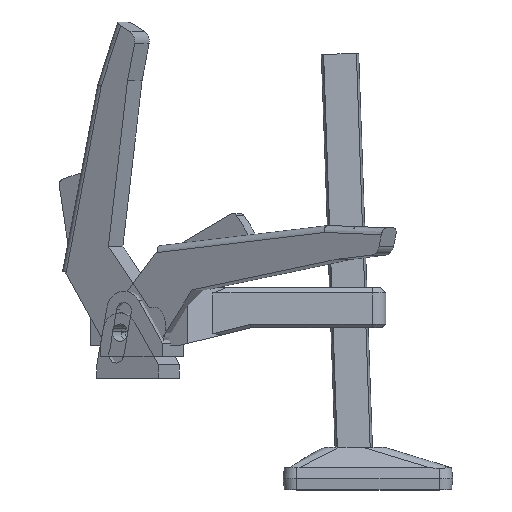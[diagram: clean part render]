
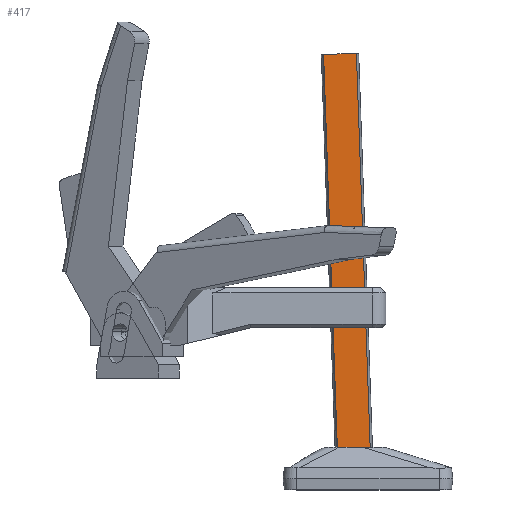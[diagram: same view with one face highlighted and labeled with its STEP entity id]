
A CAD part, top view. The second image highlights one B-rep face of the part: STEP entity #417.
In plain terms, the highlighted free-form (B-spline) face has degree [1, 1] with [2, 2] control points.
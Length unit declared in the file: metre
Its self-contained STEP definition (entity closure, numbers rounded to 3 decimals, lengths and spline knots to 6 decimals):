
#417 = ADVANCED_FACE( '', ( #874 ), #875, .T. );
#874 = FACE_OUTER_BOUND( '', #2380, .T. );
#875 = B_SPLINE_SURFACE_WITH_KNOTS( '', 1, 1, ( ( #2381, #2382 ), ( #2383, #2384 ) ), .UNSPECIFIED., .F., .F., .F., ( 2, 2 ), ( 2, 2 ), ( 0., 1. ), ( 0.078086, 1. ), .UNSPECIFIED. );
#2380 = EDGE_LOOP( '', ( #3746, #3747, #3748, #3749 ) );
#2381 = CARTESIAN_POINT( '', ( -0.011522, 0.024325, 0.00525 ) );
#2382 = CARTESIAN_POINT( '', ( -0.01963, 0.256506, 0.00525 ) );
#2383 = CARTESIAN_POINT( '', ( 0.007799, 0.025, 0.00525 ) );
#2384 = CARTESIAN_POINT( '', ( -0.000309, 0.257181, 0.00525 ) );
#3746 = ORIENTED_EDGE( '', *, *, #4220, .F. );
#3747 = ORIENTED_EDGE( '', *, *, #4350, .T. );
#3748 = ORIENTED_EDGE( '', *, *, #4216, .T. );
#3749 = ORIENTED_EDGE( '', *, *, #4451, .F. );
#4216 = EDGE_CURVE( '', #4866, #4863, #4867, .T. );
#4220 = EDGE_CURVE( '', #4872, #4873, #4874, .T. );
#4350 = EDGE_CURVE( '', #4872, #4866, #5077, .T. );
#4451 = EDGE_CURVE( '', #4873, #4863, #5217, .T. );
#4863 = VERTEX_POINT( '', #7016 );
#4866 = VERTEX_POINT( '', #7028 );
#4867 = B_SPLINE_CURVE_WITH_KNOTS( '', 1, ( #7029, #7030 ), .UNSPECIFIED., .F., .F., ( 2, 2 ), ( 0., 1. ), .UNSPECIFIED. );
#4872 = VERTEX_POINT( '', #7045 );
#4873 = VERTEX_POINT( '', #7046 );
#4874 = B_SPLINE_CURVE_WITH_KNOTS( '', 1, ( #7047, #7048 ), .UNSPECIFIED., .F., .F., ( 2, 2 ), ( 0., 1. ), .UNSPECIFIED. );
#5077 = B_SPLINE_CURVE_WITH_KNOTS( '', 1, ( #7979, #7980 ), .UNSPECIFIED., .F., .F., ( 2, 2 ), ( 0.078086, 1. ), .UNSPECIFIED. );
#5217 = B_SPLINE_CURVE_WITH_KNOTS( '', 1, ( #8715, #8716 ), .UNSPECIFIED., .F., .F., ( 2, 2 ), ( 0.080765, 1. ), .UNSPECIFIED. );
#7016 = CARTESIAN_POINT( '', ( -0.01963, 0.256506, 0.00525 ) );
#7028 = CARTESIAN_POINT( '', ( -0.000309, 0.257181, 0.00525 ) );
#7029 = CARTESIAN_POINT( '', ( -0.000309, 0.257181, 0.00525 ) );
#7030 = CARTESIAN_POINT( '', ( -0.01963, 0.256506, 0.00525 ) );
#7045 = CARTESIAN_POINT( '', ( 0.007799, 0.025, 0.00525 ) );
#7046 = CARTESIAN_POINT( '', ( -0.011545, 0.025, 0.00525 ) );
#7047 = CARTESIAN_POINT( '', ( 0.007799, 0.025, 0.00525 ) );
#7048 = CARTESIAN_POINT( '', ( -0.011545, 0.025, 0.00525 ) );
#7979 = CARTESIAN_POINT( '', ( 0.007799, 0.025, 0.00525 ) );
#7980 = CARTESIAN_POINT( '', ( -0.000309, 0.257181, 0.00525 ) );
#8715 = CARTESIAN_POINT( '', ( -0.011545, 0.025, 0.00525 ) );
#8716 = CARTESIAN_POINT( '', ( -0.01963, 0.256506, 0.00525 ) );
